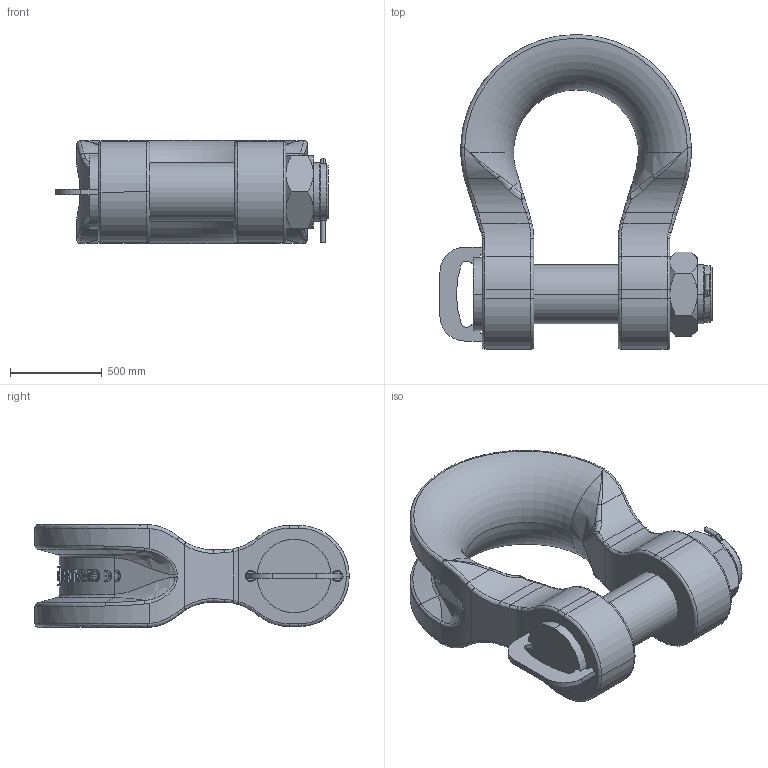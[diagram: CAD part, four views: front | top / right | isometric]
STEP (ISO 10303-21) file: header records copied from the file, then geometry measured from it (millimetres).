
FILE_DESCRIPTION(('STEP AP214'),'1');
FILE_NAME('slgpf1550.stp','2017-07-03T06:31:09',('TraceParts'),('TraceParts S.A.'),'Spatial InterOp 3D',' ',' ');
FILE_SCHEMA(('automotive_design'));
Length unit declared in the file: millimetre
Products named in the file (5): slgpf1550_1; slgpf1550_2; slgpf1550_3; slgpf1550_4; slgpf1550_5
Bounding box: 1479.5 x 1710 x 560 mm (x, y, z)
Volume: 465582264.1 mm3; surface area: 8305626.8 mm2
Topology: 5 solids, 5 shells, 581 faces, 1477 edges, 933 vertices
Faces by surface type: bspline 216, plane 183, cylinder 109, torus 38, cone 31, sphere 4
Entity records: 84470 total; most frequent: CARTESIAN_POINT 67272, ORIENTED_EDGE 2946, DIRECTION 1986, EDGE_CURVE 1473, VERTEX_POINT 933, AXIS2_PLACEMENT_3D 725, EDGE_LOOP 620, STYLED_ITEM 586
